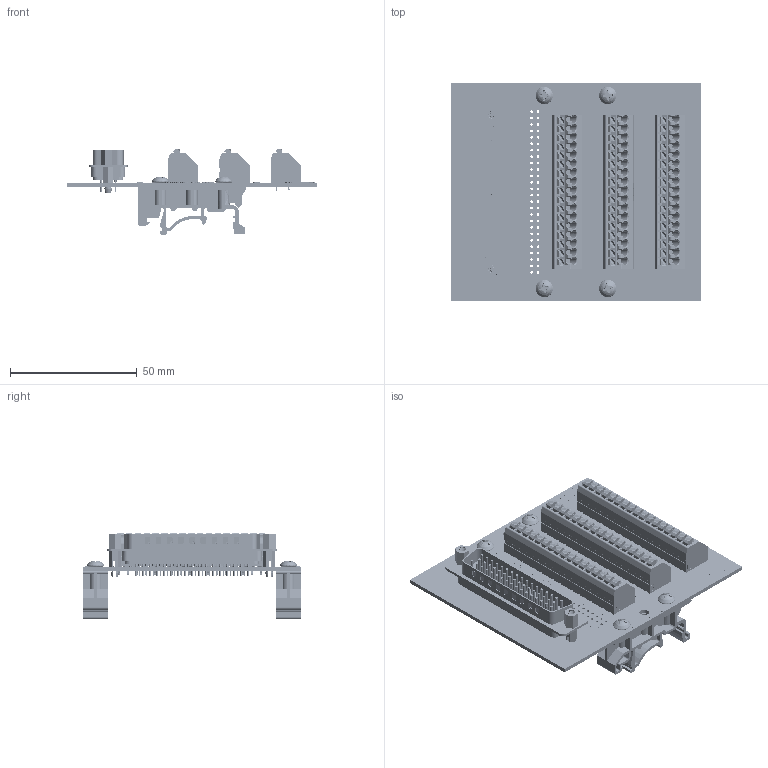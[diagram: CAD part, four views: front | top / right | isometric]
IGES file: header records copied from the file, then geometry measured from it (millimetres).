
Start section: SolidWorks IGES file using analytic representation for surfaces
Global section: file name: C:\Users\Jonny\Documents\Winford Engineering Jobs\BRKG50\BRKG50M\brkg50m-s-din_rev_a.igs; native system: SolidWorks 2017; preprocessor: SolidWorks 2017; author: Jonny; date: 171024.230117; units: inch
Bounding box: 99.06 x 86.36 x 33.67 mm (x, y, z)
Volume: 46166 mm3; surface area: 59515.7 mm2
Topology: 117 solids, 117 shells, 9926 faces, 27176 edges, 17931 vertices
Faces by surface type: plane 5478, revolution 3039, bspline 1409
